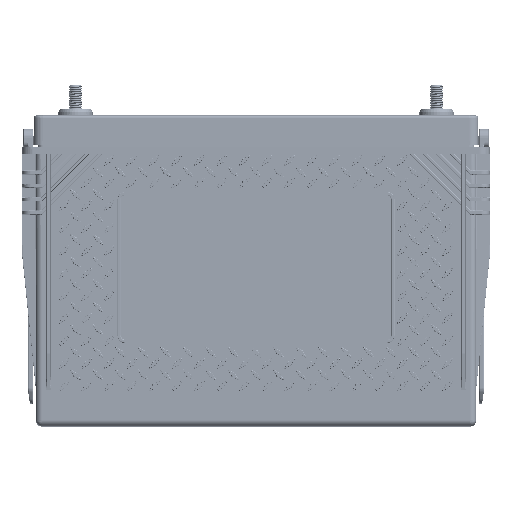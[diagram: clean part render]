
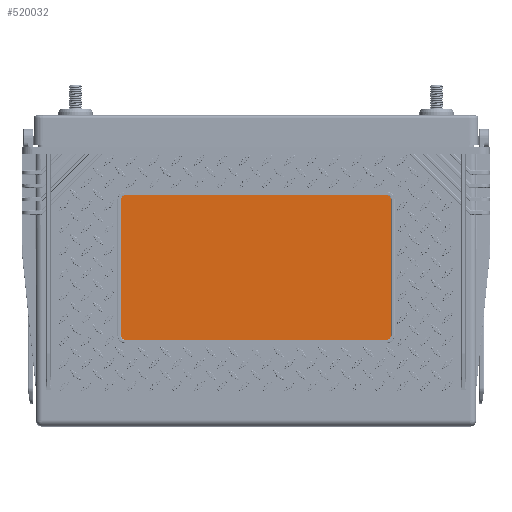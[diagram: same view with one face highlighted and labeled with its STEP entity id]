
A CAD part, top view. The second image highlights one B-rep face of the part: STEP entity #520032.
In plain terms, the highlighted planar face has unit normal (0, -0.001, 1).
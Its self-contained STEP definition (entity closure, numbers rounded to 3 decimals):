
#8159 = DIRECTION ( 'NONE',  ( 0., -1., -0.001 ) ) ;
#14761 = VERTEX_POINT ( 'NONE', #485652 ) ;
#34349 = VERTEX_POINT ( 'NONE', #227860 ) ;
#44592 = CARTESIAN_POINT ( 'NONE',  ( 3.625, 2.512, 3.253 ) ) ;
#50322 = EDGE_CURVE ( 'NONE', #373312, #14761, #794938, .T. ) ;
#66061 = DIRECTION ( 'NONE',  ( 0., -0.001, 1. ) ) ;
#66960 = EDGE_CURVE ( 'NONE', #34349, #642316, #562554, .T. ) ;
#74908 = ORIENTED_EDGE ( 'NONE', *, *, #466024, .T. ) ;
#80609 = EDGE_CURVE ( 'NONE', #613716, #34349, #750830, .T. ) ;
#89533 = VERTEX_POINT ( 'NONE', #699918 ) ;
#92001 = AXIS2_PLACEMENT_3D ( 'NONE', #730977, #797123, #218181 ) ;
#101925 = FACE_OUTER_BOUND ( 'NONE', #419097, .T. ) ;
#103398 = ORIENTED_EDGE ( 'NONE', *, *, #66960, .T. ) ;
#106702 = ORIENTED_EDGE ( 'NONE', *, *, #436859, .T. ) ;
#123377 = CARTESIAN_POINT ( 'NONE',  ( -3.625, 2.396, 3.253 ) ) ;
#136241 = CARTESIAN_POINT ( 'NONE',  ( -3.74, 0., 3.25 ) ) ;
#151186 = CARTESIAN_POINT ( 'NONE',  ( -3.625, 2.512, 3.253 ) ) ;
#153386 = EDGE_CURVE ( 'NONE', #731466, #768001, #562709, .T. ) ;
#179175 = PLANE ( 'NONE',  #646694 ) ;
#202498 = CARTESIAN_POINT ( 'NONE',  ( -3.625, 6.397, 3.257 ) ) ;
#218181 = DIRECTION ( 'NONE',  ( 0., -1., -0.001 ) ) ;
#227860 = CARTESIAN_POINT ( 'NONE',  ( -3.74, 6.282, 3.257 ) ) ;
#232327 = DIRECTION ( 'NONE',  ( 1., 0., 0. ) ) ;
#234366 = ORIENTED_EDGE ( 'NONE', *, *, #80609, .T. ) ;
#244309 = VECTOR ( 'NONE', #8159, 39.37 ) ;
#245280 = DIRECTION ( 'NONE',  ( 0., -1., -0.001 ) ) ;
#263069 = DIRECTION ( 'NONE',  ( 0., -1., -0.001 ) ) ;
#266556 = AXIS2_PLACEMENT_3D ( 'NONE', #151186, #465491, #263069 ) ;
#277250 = CARTESIAN_POINT ( 'NONE',  ( 3.74, 6.282, 3.257 ) ) ;
#286362 = EDGE_CURVE ( 'NONE', #89533, #731466, #439163, .T. ) ;
#311213 = VECTOR ( 'NONE', #530489, 39.37 ) ;
#318358 = VECTOR ( 'NONE', #579618, 39.37 ) ;
#319125 = CARTESIAN_POINT ( 'NONE',  ( 3.74, 0., 3.25 ) ) ;
#326937 = AXIS2_PLACEMENT_3D ( 'NONE', #44592, #735263, #549193 ) ;
#360589 = CARTESIAN_POINT ( 'NONE',  ( -6.096, 2.396, 3.253 ) ) ;
#367422 = ORIENTED_EDGE ( 'NONE', *, *, #153386, .T. ) ;
#368143 = ORIENTED_EDGE ( 'NONE', *, *, #50322, .T. ) ;
#373312 = VERTEX_POINT ( 'NONE', #123377 ) ;
#411032 = VECTOR ( 'NONE', #232327, 39.37 ) ;
#419097 = EDGE_LOOP ( 'NONE', ( #74908, #234366, #103398, #106702, #368143, #726245, #446368, #367422 ) ) ;
#436859 = EDGE_CURVE ( 'NONE', #642316, #373312, #557193, .T. ) ;
#439163 = LINE ( 'NONE', #319125, #318358 ) ;
#446368 = ORIENTED_EDGE ( 'NONE', *, *, #286362, .T. ) ;
#465491 = DIRECTION ( 'NONE',  ( 0., -0.001, 1. ) ) ;
#466024 = EDGE_CURVE ( 'NONE', #768001, #613716, #654548, .T. ) ;
#485652 = CARTESIAN_POINT ( 'NONE',  ( 3.625, 2.396, 3.253 ) ) ;
#520032 = ADVANCED_FACE ( 'NONE', ( #101925 ), #179175, .T. ) ;
#530489 = DIRECTION ( 'NONE',  ( -1., 0., 0. ) ) ;
#549193 = DIRECTION ( 'NONE',  ( 0., -1., -0.001 ) ) ;
#557193 = CIRCLE ( 'NONE', #266556, 0.115 ) ;
#562554 = LINE ( 'NONE', #136241, #244309 ) ;
#562709 = CIRCLE ( 'NONE', #734434, 0.115 ) ;
#579618 = DIRECTION ( 'NONE',  ( 0., 1., 0.001 ) ) ;
#584375 = CARTESIAN_POINT ( 'NONE',  ( -6.096, 6.397, 3.257 ) ) ;
#606470 = CARTESIAN_POINT ( 'NONE',  ( -6.096, 0., 3.25 ) ) ;
#613716 = VERTEX_POINT ( 'NONE', #202498 ) ;
#624521 = DIRECTION ( 'NONE',  ( 0., -1., -0.001 ) ) ;
#641842 = EDGE_CURVE ( 'NONE', #14761, #89533, #723093, .T. ) ;
#642316 = VERTEX_POINT ( 'NONE', #787223 ) ;
#646694 = AXIS2_PLACEMENT_3D ( 'NONE', #606470, #757997, #245280 ) ;
#654548 = LINE ( 'NONE', #584375, #311213 ) ;
#670128 = CARTESIAN_POINT ( 'NONE',  ( 3.625, 6.397, 3.257 ) ) ;
#699918 = CARTESIAN_POINT ( 'NONE',  ( 3.74, 2.512, 3.253 ) ) ;
#723093 = CIRCLE ( 'NONE', #326937, 0.115 ) ;
#726245 = ORIENTED_EDGE ( 'NONE', *, *, #641842, .T. ) ;
#730977 = CARTESIAN_POINT ( 'NONE',  ( -3.625, 6.282, 3.257 ) ) ;
#731466 = VERTEX_POINT ( 'NONE', #277250 ) ;
#734434 = AXIS2_PLACEMENT_3D ( 'NONE', #748636, #66061, #624521 ) ;
#735263 = DIRECTION ( 'NONE',  ( 0., -0.001, 1. ) ) ;
#748636 = CARTESIAN_POINT ( 'NONE',  ( 3.625, 6.282, 3.257 ) ) ;
#750830 = CIRCLE ( 'NONE', #92001, 0.115 ) ;
#757997 = DIRECTION ( 'NONE',  ( 0., -0.001, 1. ) ) ;
#768001 = VERTEX_POINT ( 'NONE', #670128 ) ;
#787223 = CARTESIAN_POINT ( 'NONE',  ( -3.74, 2.512, 3.253 ) ) ;
#794938 = LINE ( 'NONE', #360589, #411032 ) ;
#797123 = DIRECTION ( 'NONE',  ( 0., -0.001, 1. ) ) ;
